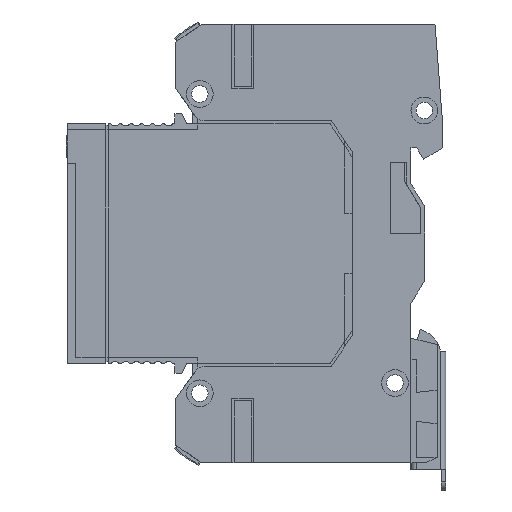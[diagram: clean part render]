
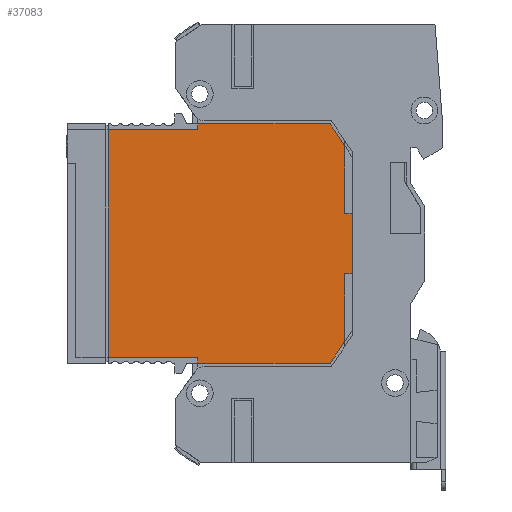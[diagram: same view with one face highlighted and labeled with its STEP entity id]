
A CAD part, left-side view. The second image highlights one B-rep face of the part: STEP entity #37083.
In plain terms, the highlighted planar face has unit normal (-1, 0, 0) as drawn and (0, -1, 0) by its records, which use the part's own axes.
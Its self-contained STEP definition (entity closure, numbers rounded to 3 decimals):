
#7 = EDGE_LOOP ( 'NONE', ( #20677, #1278, #43748, #9983, #34286, #71348, #61645, #57272, #65962, #74891, #42239, #55883, #1387, #21239 ) ) ;
#1278 = ORIENTED_EDGE ( 'NONE', *, *, #18164, .F. ) ;
#1387 = ORIENTED_EDGE ( 'NONE', *, *, #34128, .F. ) ;
#1803 = CARTESIAN_POINT ( 'NONE',  ( -5.65, 0., 25.15 ) ) ;
#2421 = VECTOR ( 'NONE', #20796, 1000. ) ;
#2617 = VERTEX_POINT ( 'NONE', #23668 ) ;
#3556 = CARTESIAN_POINT ( 'NONE',  ( -21.3, 0., -2.35 ) ) ;
#4610 = LINE ( 'NONE', #3556, #32156 ) ;
#4837 = CARTESIAN_POINT ( 'NONE',  ( 22.4, 0., 22.45 ) ) ;
#9245 = CARTESIAN_POINT ( 'NONE',  ( 0., 0., 0. ) ) ;
#9454 = VECTOR ( 'NONE', #49761, 1000. ) ;
#9795 = LINE ( 'NONE', #18805, #74684 ) ;
#9983 = ORIENTED_EDGE ( 'NONE', *, *, #45859, .T. ) ;
#10628 = EDGE_CURVE ( 'NONE', #12233, #38193, #20106, .T. ) ;
#11335 = VERTEX_POINT ( 'NONE', #48368 ) ;
#12233 = VERTEX_POINT ( 'NONE', #20213 ) ;
#13612 = VERTEX_POINT ( 'NONE', #66421 ) ;
#14385 = LINE ( 'NONE', #59731, #79291 ) ;
#14940 = LINE ( 'NONE', #26680, #62157 ) ;
#15272 = LINE ( 'NONE', #38871, #45702 ) ;
#16034 = VECTOR ( 'NONE', #35295, 1000. ) ;
#16641 = EDGE_CURVE ( 'NONE', #66007, #13612, #49316, .T. ) ;
#17430 = CARTESIAN_POINT ( 'NONE',  ( -5.65, 0., 26.55 ) ) ;
#18164 = EDGE_CURVE ( 'NONE', #31430, #40408, #37349, .T. ) ;
#18805 = CARTESIAN_POINT ( 'NONE',  ( 21.3, 0., -2.35 ) ) ;
#19708 = DIRECTION ( 'NONE',  ( 1., 0., 0. ) ) ;
#20077 = DIRECTION ( 'NONE',  ( 0., 0., 1. ) ) ;
#20106 = LINE ( 'NONE', #1803, #2421 ) ;
#20213 = CARTESIAN_POINT ( 'NONE',  ( -5.65, 0., 26.55 ) ) ;
#20632 = EDGE_CURVE ( 'NONE', #2617, #60680, #4610, .T. ) ;
#20677 = ORIENTED_EDGE ( 'NONE', *, *, #70552, .F. ) ;
#20796 = DIRECTION ( 'NONE',  ( 0., 0., -1. ) ) ;
#21239 = ORIENTED_EDGE ( 'NONE', *, *, #20632, .T. ) ;
#22008 = CARTESIAN_POINT ( 'NONE',  ( -21.3, 0., -19.05 ) ) ;
#22607 = VERTEX_POINT ( 'NONE', #80274 ) ;
#23668 = CARTESIAN_POINT ( 'NONE',  ( -22.4, 0., -2.35 ) ) ;
#23713 = VECTOR ( 'NONE', #52556, 1000. ) ;
#24053 = DIRECTION ( 'NONE',  ( -1., 0., 0. ) ) ;
#25991 = CARTESIAN_POINT ( 'NONE',  ( 22.4, 0., -2.35 ) ) ;
#26200 = LINE ( 'NONE', #29687, #9454 ) ;
#26473 = CARTESIAN_POINT ( 'NONE',  ( -22.4, 0., 22.45 ) ) ;
#26680 = CARTESIAN_POINT ( 'NONE',  ( -21.3, 0., -25.15 ) ) ;
#28393 = DIRECTION ( 'NONE',  ( 0., 0., -1. ) ) ;
#29687 = CARTESIAN_POINT ( 'NONE',  ( 5.65, 0., 25.15 ) ) ;
#30060 = CARTESIAN_POINT ( 'NONE',  ( 5.65, 0., 26.55 ) ) ;
#31430 = VERTEX_POINT ( 'NONE', #52563 ) ;
#31644 = CARTESIAN_POINT ( 'NONE',  ( -21.3, 0., -2.35 ) ) ;
#32156 = VECTOR ( 'NONE', #41418, 1000. ) ;
#32772 = LINE ( 'NONE', #4837, #16034 ) ;
#34006 = CARTESIAN_POINT ( 'NONE',  ( -21.3, 0., 25.15 ) ) ;
#34128 = EDGE_CURVE ( 'NONE', #2617, #66007, #78481, .T. ) ;
#34217 = DIRECTION ( 'NONE',  ( 0., 0., 1. ) ) ;
#34286 = ORIENTED_EDGE ( 'NONE', *, *, #49859, .F. ) ;
#34403 = DIRECTION ( 'NONE',  ( 0.835, 0., 0.55 ) ) ;
#34735 = PLANE ( 'NONE',  #35625 ) ;
#35295 = DIRECTION ( 'NONE',  ( 0.835, 0., -0.55 ) ) ;
#35467 = CARTESIAN_POINT ( 'NONE',  ( -22.4, 0., 22.45 ) ) ;
#35625 = AXIS2_PLACEMENT_3D ( 'NONE', #9245, #78789, #34217 ) ;
#36192 = EDGE_CURVE ( 'NONE', #22607, #31430, #14385, .T. ) ;
#36376 = CARTESIAN_POINT ( 'NONE',  ( -22.4, 0., -2.35 ) ) ;
#36593 = LINE ( 'NONE', #34006, #39560 ) ;
#37083 = ADVANCED_FACE ( 'NONE', ( #57445 ), #34735, .F. ) ;
#37349 = LINE ( 'NONE', #46456, #23713 ) ;
#38193 = VERTEX_POINT ( 'NONE', #52515 ) ;
#38871 = CARTESIAN_POINT ( 'NONE',  ( -21.3, 0., 25.15 ) ) ;
#39560 = VECTOR ( 'NONE', #59584, 1000. ) ;
#40408 = VERTEX_POINT ( 'NONE', #22008 ) ;
#40663 = DIRECTION ( 'NONE',  ( 0., 0., -1. ) ) ;
#41418 = DIRECTION ( 'NONE',  ( 1., 0., 0. ) ) ;
#42239 = ORIENTED_EDGE ( 'NONE', *, *, #44076, .F. ) ;
#42699 = CARTESIAN_POINT ( 'NONE',  ( 22.4, 0., 22.45 ) ) ;
#42989 = VECTOR ( 'NONE', #74354, 1000. ) ;
#43140 = VERTEX_POINT ( 'NONE', #30060 ) ;
#43157 = EDGE_CURVE ( 'NONE', #43140, #12233, #81065, .T. ) ;
#43748 = ORIENTED_EDGE ( 'NONE', *, *, #36192, .F. ) ;
#44076 = EDGE_CURVE ( 'NONE', #13612, #38193, #36593, .T. ) ;
#44826 = VERTEX_POINT ( 'NONE', #61092 ) ;
#45702 = VECTOR ( 'NONE', #19708, 1000. ) ;
#45859 = EDGE_CURVE ( 'NONE', #22607, #57914, #9795, .T. ) ;
#46456 = CARTESIAN_POINT ( 'NONE',  ( -21.3, 0., -19.05 ) ) ;
#48158 = EDGE_CURVE ( 'NONE', #44826, #43140, #26200, .T. ) ;
#48257 = EDGE_CURVE ( 'NONE', #44826, #11335, #15272, .T. ) ;
#48368 = CARTESIAN_POINT ( 'NONE',  ( 18.3, 0., 25.15 ) ) ;
#49316 = LINE ( 'NONE', #35467, #50277 ) ;
#49761 = DIRECTION ( 'NONE',  ( 0., 0., 1. ) ) ;
#49859 = EDGE_CURVE ( 'NONE', #81163, #57914, #52388, .T. ) ;
#50277 = VECTOR ( 'NONE', #34403, 1000. ) ;
#52388 = LINE ( 'NONE', #58887, #71980 ) ;
#52515 = CARTESIAN_POINT ( 'NONE',  ( -5.65, 0., 25.15 ) ) ;
#52556 = DIRECTION ( 'NONE',  ( -1., 0., 0. ) ) ;
#52563 = CARTESIAN_POINT ( 'NONE',  ( 21.3, 0., -19.05 ) ) ;
#55883 = ORIENTED_EDGE ( 'NONE', *, *, #16641, .F. ) ;
#57272 = ORIENTED_EDGE ( 'NONE', *, *, #48158, .T. ) ;
#57445 = FACE_OUTER_BOUND ( 'NONE', #7, .T. ) ;
#57914 = VERTEX_POINT ( 'NONE', #25991 ) ;
#58887 = CARTESIAN_POINT ( 'NONE',  ( 22.4, 0., -2.35 ) ) ;
#59455 = VECTOR ( 'NONE', #24053, 1000. ) ;
#59584 = DIRECTION ( 'NONE',  ( 1., 0., 0. ) ) ;
#59731 = CARTESIAN_POINT ( 'NONE',  ( 21.3, 0., -25.15 ) ) ;
#60680 = VERTEX_POINT ( 'NONE', #31644 ) ;
#61092 = CARTESIAN_POINT ( 'NONE',  ( 5.65, 0., 25.15 ) ) ;
#61645 = ORIENTED_EDGE ( 'NONE', *, *, #48257, .F. ) ;
#62157 = VECTOR ( 'NONE', #20077, 1000. ) ;
#65962 = ORIENTED_EDGE ( 'NONE', *, *, #43157, .T. ) ;
#66007 = VERTEX_POINT ( 'NONE', #26473 ) ;
#66421 = CARTESIAN_POINT ( 'NONE',  ( -18.3, 0., 25.15 ) ) ;
#68803 = DIRECTION ( 'NONE',  ( 1., 0., 0. ) ) ;
#70552 = EDGE_CURVE ( 'NONE', #40408, #60680, #14940, .T. ) ;
#71348 = ORIENTED_EDGE ( 'NONE', *, *, #79463, .F. ) ;
#71980 = VECTOR ( 'NONE', #40663, 1000. ) ;
#74354 = DIRECTION ( 'NONE',  ( 0., 0., 1. ) ) ;
#74684 = VECTOR ( 'NONE', #68803, 1000. ) ;
#74891 = ORIENTED_EDGE ( 'NONE', *, *, #10628, .T. ) ;
#78481 = LINE ( 'NONE', #36376, #42989 ) ;
#78789 = DIRECTION ( 'NONE',  ( 0., 1., 0. ) ) ;
#79291 = VECTOR ( 'NONE', #28393, 1000. ) ;
#79463 = EDGE_CURVE ( 'NONE', #11335, #81163, #32772, .T. ) ;
#80274 = CARTESIAN_POINT ( 'NONE',  ( 21.3, 0., -2.35 ) ) ;
#81065 = LINE ( 'NONE', #17430, #59455 ) ;
#81163 = VERTEX_POINT ( 'NONE', #42699 ) ;
